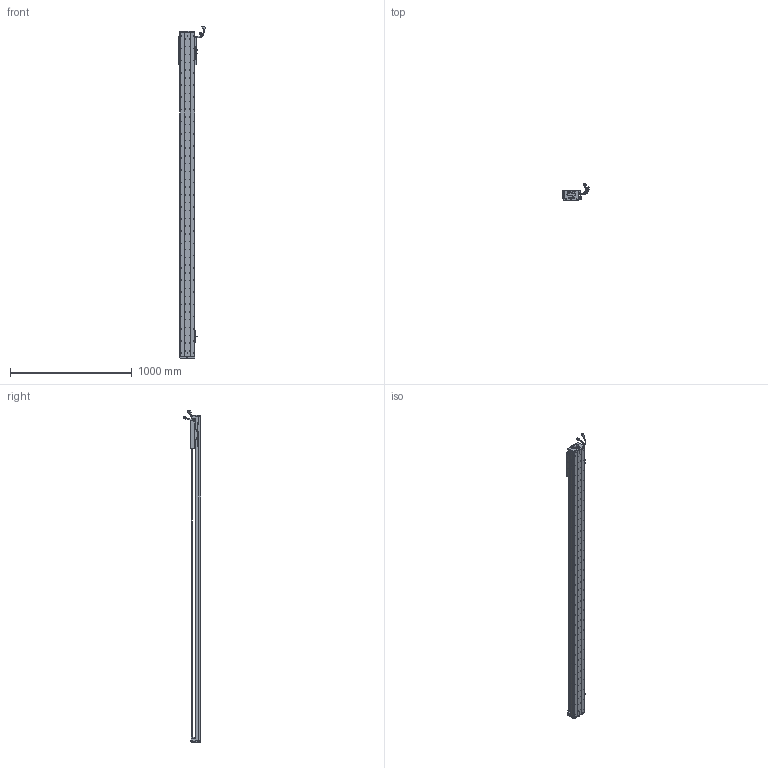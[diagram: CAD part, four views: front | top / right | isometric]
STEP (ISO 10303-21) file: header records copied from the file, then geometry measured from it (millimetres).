
FILE_DESCRIPTION (( 'STEP AP203' ), '1' );
FILE_NAME ('Z3-RY120D-1-L500-B-K.SLDASM_2350.step', '2021-05-17T05:49:59', ( '盈信电脑' ), ( '东莞市道滘镇水果街19号' ), 'SwSTEP 2.0', 'SolidWorks 2016', '' );
FILE_SCHEMA (( 'CONFIG_CONTROL_DESIGN' ));
Length unit declared in the file: millimetre
Products named in the file (37): 覜茼ん672; Z3-RY120-L500詩湍100mm遵_2350; HARNESS-Part-2; 672嫖萇羲壽假蚾釱; SCREW-M1.6-1; Z3-RY120D-1-L500-B-K.SLDASM_2350; SCALE; SCREW-M1.7-1; LABEL-Part-1; HOLDER0; Z-RY120D詩湍狟揤裔; SCREW-M1.6; SCALE-Part-1; 080黍杅芛假蚾釱21遴; 140蚥薯蝶輸; COVER; SCREW-M1.6-3; COVER-Part-1; SCREW-M1.7; 140雄赽晤鎢ん堤盄; SHIELDPLATE; HARNESS; 榋妏寠巭燃_暯_M2_2; Z-120詩湍傷裔啣; Z3-RY120铝滑块（21款）; RY100FB-遵嫖萇覜茼え; HARNESS-Part-1; 120-Z-臏賑輸盄裔(21遴); SEAL-Part-1; SEAL; SCALE-Part-2; PSLH080_PSLF2; SCREW-M1.6-2; Z-RY120D詩湍奻揤裔; PBU_SHEET; LABEL; Z3-RY120-500-倰第菁釱_2350
Assembly tree (43 placements, depth 4):
  Z3-RY120D-1-L500-B-K.SLDASM_2350
    Z3-RY120-500-倰第菁釱_2350
    覜茼ん672  x3
    672嫖萇羲壽假蚾釱  x2
    Z3-RY120铝滑块（21款）
    PSLH080_PSLF2
      SCALE
        SCALE-Part-1
        SCALE-Part-2
      HARNESS
        HARNESS-Part-1
        HARNESS-Part-2
      LABEL
        LABEL-Part-1
      COVER
        COVER-Part-1
      SEAL
        SEAL-Part-1
      榋妏寠巭燃_暯_M2_2
      SHIELDPLATE
      SCREW-M1.7
      SCREW-M1.7-1
      PBU_SHEET
      SCREW-M1.6
      SCREW-M1.6-1
      SCREW-M1.6-2
      SCREW-M1.6-3
      HOLDER0
    080黍杅芛假蚾釱21遴
    120-Z-臏賑輸盄裔(21遴)
    140雄赽晤鎢ん堤盄
    140蚥薯蝶輸  x2
    RY100FB-遵嫖萇覜茼え
    Z-120詩湍傷裔啣  x2
    Z-RY120D詩湍奻揤裔  x2
    Z-RY120D詩湍狟揤裔  x2
    Z3-RY120-L500詩湍100mm遵_2350
Bounding box: 222.83 x 140.94 x 2723.99 mm (x, y, z)
Volume: 6385271.3 mm3; surface area: 2231982 mm2
Topology: 38 solids, 38 shells, 3741 faces, 10675 edges, 6734 vertices
Faces by surface type: cylinder 1973, plane 1256, cone 390, torus 69, bspline 53
Entity records: 126086 total; most frequent: CARTESIAN_POINT 38795, ORIENTED_EDGE 18094, DIRECTION 16543, EDGE_CURVE 9047, AXIS2_PLACEMENT_3D 6120, VERTEX_POINT 5854, LINE 4303, VECTOR 4303
